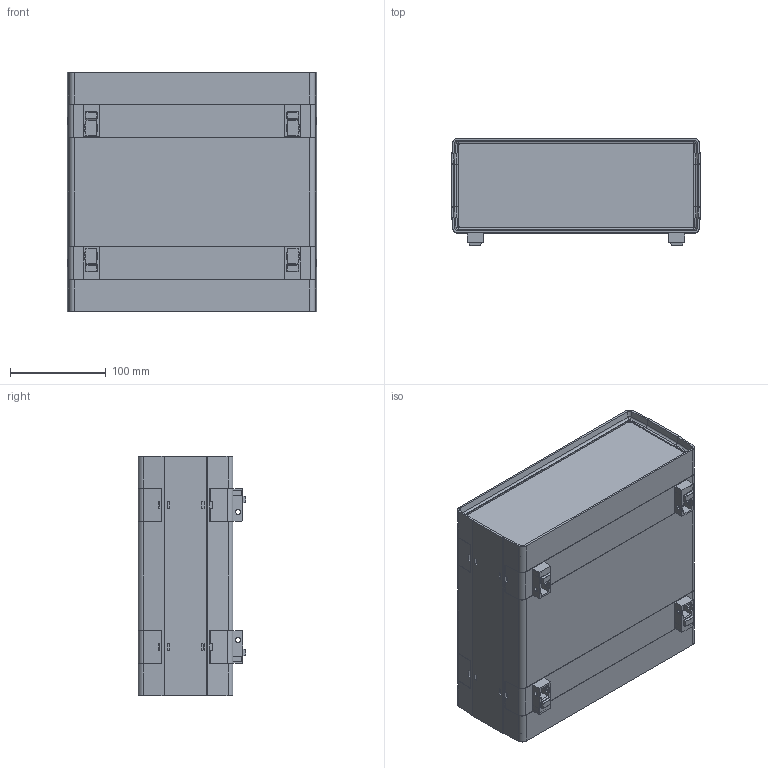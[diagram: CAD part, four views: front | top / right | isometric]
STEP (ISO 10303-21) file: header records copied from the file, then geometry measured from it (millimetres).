
FILE_DESCRIPTION (( 'STEP AP214' ), '1' );
FILE_NAME ('ES-20-NV.STEP', '2020-09-06T20:03:57', ( 'Rudy' ), ( '' ), 'SwSTEP 2.0', 'SolidWorks 2014', '' );
FILE_SCHEMA (( 'AUTOMOTIVE_DESIGN' ));
Length unit declared in the file: inch
Products named in the file (7): AET-003; EPS-20; Rubber foot; AET-016; AET-006; 10 inch Euro Tech; ES-20-NV
Assembly tree (14 placements, depth 2):
  ES-20-NV
    10 inch Euro Tech  x2
    AET-006  x2
    AET-016  x2
    Rubber foot  x4
    EPS-20  x2
    AET-003  x2
Bounding box: 260.82 x 112.27 x 250.19 mm (x, y, z)
Volume: 791853.4 mm3; surface area: 687430.7 mm2
Topology: 26 solids, 26 shells, 5566 faces, 15578 edges, 10240 vertices
Faces by surface type: plane 4488, cylinder 690, cone 272, sphere 60, torus 48, bspline 8
Entity records: 88202 total; most frequent: CARTESIAN_POINT 16527, ORIENTED_EDGE 15290, DIRECTION 14008, EDGE_CURVE 7645, LINE 6074, VECTOR 6074, VERTEX_POINT 5056, AXIS2_PLACEMENT_3D 3967
